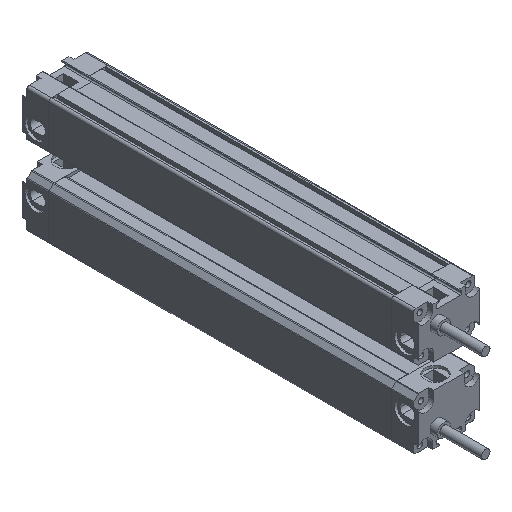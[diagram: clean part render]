
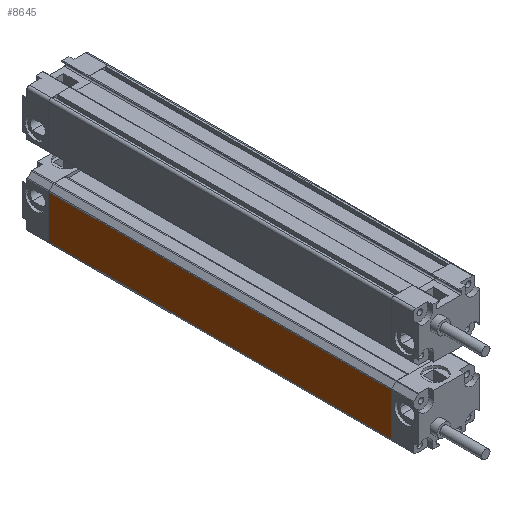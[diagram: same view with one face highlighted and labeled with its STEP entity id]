
A CAD part, isometric view. The second image highlights one B-rep face of the part: STEP entity #8645.
In plain terms, the highlighted planar face has unit normal (-1, 0, 0).
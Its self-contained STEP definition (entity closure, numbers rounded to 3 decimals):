
#212 = EDGE_CURVE ( 'NONE', #2994, #9981, #4098, .T. ) ;
#530 = VECTOR ( 'NONE', #2192, 1000. ) ;
#604 = VERTEX_POINT ( 'NONE', #9816 ) ;
#869 = AXIS2_PLACEMENT_3D ( 'NONE', #8120, #8974, #9006 ) ;
#901 = DIRECTION ( 'NONE',  ( 0., 1., 0. ) ) ;
#1087 = EDGE_CURVE ( 'NONE', #2994, #4599, #4209, .T. ) ;
#1939 = CARTESIAN_POINT ( 'NONE',  ( -12.5, -140., 8.293 ) ) ;
#2000 = ORIENTED_EDGE ( 'NONE', *, *, #1087, .T. ) ;
#2192 = DIRECTION ( 'NONE',  ( 0., 0., 1. ) ) ;
#2723 = ORIENTED_EDGE ( 'NONE', *, *, #5123, .F. ) ;
#2816 = DIRECTION ( 'NONE',  ( 0., 1., 0. ) ) ;
#2901 = VECTOR ( 'NONE', #2816, 1000. ) ;
#2994 = VERTEX_POINT ( 'NONE', #4147 ) ;
#3435 = DIRECTION ( 'NONE',  ( 0., 0., 1. ) ) ;
#3572 = ORIENTED_EDGE ( 'NONE', *, *, #6973, .T. ) ;
#4098 = LINE ( 'NONE', #10150, #10592 ) ;
#4147 = CARTESIAN_POINT ( 'NONE',  ( -12.5, -140., -9.2 ) ) ;
#4209 = LINE ( 'NONE', #4716, #530 ) ;
#4599 = VERTEX_POINT ( 'NONE', #10877 ) ;
#4716 = CARTESIAN_POINT ( 'NONE',  ( -12.5, -140., -9.2 ) ) ;
#4723 = VECTOR ( 'NONE', #3435, 1000. ) ;
#5123 = EDGE_CURVE ( 'NONE', #9981, #604, #7319, .T. ) ;
#5264 = ORIENTED_EDGE ( 'NONE', *, *, #212, .F. ) ;
#6304 = EDGE_LOOP ( 'NONE', ( #2723, #5264, #2000, #3572 ) ) ;
#6833 = CARTESIAN_POINT ( 'NONE',  ( -12.5, 0., -9.2 ) ) ;
#6973 = EDGE_CURVE ( 'NONE', #4599, #604, #7330, .T. ) ;
#7168 = PLANE ( 'NONE',  #869 ) ;
#7319 = LINE ( 'NONE', #7556, #4723 ) ;
#7330 = LINE ( 'NONE', #1939, #2901 ) ;
#7445 = FACE_OUTER_BOUND ( 'NONE', #6304, .T. ) ;
#7556 = CARTESIAN_POINT ( 'NONE',  ( -12.5, 0., -9.2 ) ) ;
#8120 = CARTESIAN_POINT ( 'NONE',  ( -12.5, -140., -9.2 ) ) ;
#8645 = ADVANCED_FACE ( 'NONE', ( #7445 ), #7168, .T. ) ;
#8974 = DIRECTION ( 'NONE',  ( -1., 0., 0. ) ) ;
#9006 = DIRECTION ( 'NONE',  ( 0., 0., 1. ) ) ;
#9816 = CARTESIAN_POINT ( 'NONE',  ( -12.5, 0., 8.293 ) ) ;
#9981 = VERTEX_POINT ( 'NONE', #6833 ) ;
#10150 = CARTESIAN_POINT ( 'NONE',  ( -12.5, -140., -9.2 ) ) ;
#10592 = VECTOR ( 'NONE', #901, 1000. ) ;
#10877 = CARTESIAN_POINT ( 'NONE',  ( -12.5, -140., 8.293 ) ) ;
